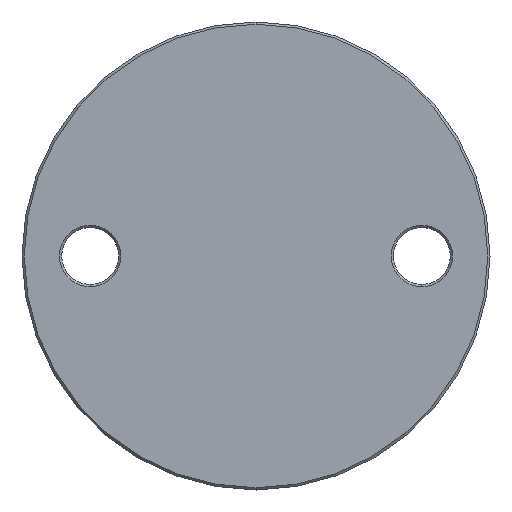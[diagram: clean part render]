
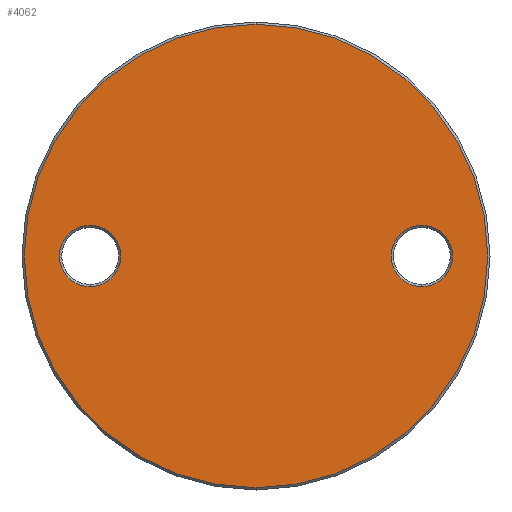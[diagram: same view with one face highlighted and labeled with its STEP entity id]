
A CAD part, front view. The second image highlights one B-rep face of the part: STEP entity #4062.
In plain terms, the highlighted planar face has unit normal (0, -1, 0).
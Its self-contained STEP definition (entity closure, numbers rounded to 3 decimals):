
#16 = ORIENTED_EDGE ( 'NONE', *, *, #1465, .T. ) ;
#225 = CARTESIAN_POINT ( 'NONE',  ( -36.5, -3., 0. ) ) ;
#252 = FACE_OUTER_BOUND ( 'NONE', #4340, .T. ) ;
#371 = VERTEX_POINT ( 'NONE', #467 ) ;
#467 = CARTESIAN_POINT ( 'NONE',  ( 0., -3., 51. ) ) ;
#559 = AXIS2_PLACEMENT_3D ( 'NONE', #2657, #1582, #3194 ) ;
#765 = CIRCLE ( 'NONE', #2286, 51. ) ;
#930 = CARTESIAN_POINT ( 'NONE',  ( 0., -3., 51.5 ) ) ;
#1051 = CARTESIAN_POINT ( 'NONE',  ( -36.5, -3., 6.75 ) ) ;
#1152 = EDGE_CURVE ( 'NONE', #4224, #6169, #4572, .T. ) ;
#1364 = CARTESIAN_POINT ( 'NONE',  ( 0., -3., 0. ) ) ;
#1465 = EDGE_CURVE ( 'NONE', #5958, #371, #3269, .T. ) ;
#1466 = AXIS2_PLACEMENT_3D ( 'NONE', #5038, #5518, #1893 ) ;
#1477 = DIRECTION ( 'NONE',  ( 0., -1., 0. ) ) ;
#1582 = DIRECTION ( 'NONE',  ( 0., 1., 0. ) ) ;
#1713 = ORIENTED_EDGE ( 'NONE', *, *, #2760, .T. ) ;
#1815 = ORIENTED_EDGE ( 'NONE', *, *, #3909, .T. ) ;
#1819 = CARTESIAN_POINT ( 'NONE',  ( -36.5, -3., -6.75 ) ) ;
#1829 = AXIS2_PLACEMENT_3D ( 'NONE', #225, #6528, #5002 ) ;
#1893 = DIRECTION ( 'NONE',  ( 0., 0., -1. ) ) ;
#1894 = DIRECTION ( 'NONE',  ( 0., -1., 0. ) ) ;
#1933 = CARTESIAN_POINT ( 'NONE',  ( -36.5, -3., 0. ) ) ;
#1976 = AXIS2_PLACEMENT_3D ( 'NONE', #6441, #2755, #3272 ) ;
#2286 = AXIS2_PLACEMENT_3D ( 'NONE', #1364, #1894, #6096 ) ;
#2295 = AXIS2_PLACEMENT_3D ( 'NONE', #1933, #3600, #6696 ) ;
#2401 = CIRCLE ( 'NONE', #1466, 6.75 ) ;
#2653 = EDGE_LOOP ( 'NONE', ( #4726, #4907 ) ) ;
#2657 = CARTESIAN_POINT ( 'NONE',  ( 36.5, -3., 0. ) ) ;
#2688 = CIRCLE ( 'NONE', #1829, 6.75 ) ;
#2755 = DIRECTION ( 'NONE',  ( 0., -1., 0. ) ) ;
#2760 = EDGE_CURVE ( 'NONE', #371, #5958, #765, .T. ) ;
#3029 = PLANE ( 'NONE',  #5356 ) ;
#3194 = DIRECTION ( 'NONE',  ( 0., 0., -1. ) ) ;
#3269 = CIRCLE ( 'NONE', #1976, 51. ) ;
#3272 = DIRECTION ( 'NONE',  ( 0., 0., -1. ) ) ;
#3464 = CARTESIAN_POINT ( 'NONE',  ( 0., -3., -51. ) ) ;
#3600 = DIRECTION ( 'NONE',  ( 0., 1., 0. ) ) ;
#3702 = EDGE_LOOP ( 'NONE', ( #5147, #1815 ) ) ;
#3909 = EDGE_CURVE ( 'NONE', #6169, #4224, #2401, .T. ) ;
#4062 = ADVANCED_FACE ( 'NONE', ( #4958, #4791, #252 ), #3029, .T. ) ;
#4142 = CARTESIAN_POINT ( 'NONE',  ( 36.5, -3., 6.75 ) ) ;
#4224 = VERTEX_POINT ( 'NONE', #5973 ) ;
#4340 = EDGE_LOOP ( 'NONE', ( #1713, #16 ) ) ;
#4357 = EDGE_CURVE ( 'NONE', #5857, #6722, #5792, .T. ) ;
#4572 = CIRCLE ( 'NONE', #559, 6.75 ) ;
#4726 = ORIENTED_EDGE ( 'NONE', *, *, #4357, .T. ) ;
#4791 = FACE_BOUND ( 'NONE', #2653, .T. ) ;
#4907 = ORIENTED_EDGE ( 'NONE', *, *, #6296, .T. ) ;
#4958 = FACE_BOUND ( 'NONE', #3702, .T. ) ;
#5002 = DIRECTION ( 'NONE',  ( 0., 0., -1. ) ) ;
#5038 = CARTESIAN_POINT ( 'NONE',  ( 36.5, -3., 0. ) ) ;
#5147 = ORIENTED_EDGE ( 'NONE', *, *, #1152, .T. ) ;
#5356 = AXIS2_PLACEMENT_3D ( 'NONE', #930, #1477, #5695 ) ;
#5518 = DIRECTION ( 'NONE',  ( 0., 1., 0. ) ) ;
#5695 = DIRECTION ( 'NONE',  ( 0., 0., -1. ) ) ;
#5792 = CIRCLE ( 'NONE', #2295, 6.75 ) ;
#5857 = VERTEX_POINT ( 'NONE', #1819 ) ;
#5958 = VERTEX_POINT ( 'NONE', #3464 ) ;
#5973 = CARTESIAN_POINT ( 'NONE',  ( 36.5, -3., -6.75 ) ) ;
#6096 = DIRECTION ( 'NONE',  ( 0., 0., -1. ) ) ;
#6169 = VERTEX_POINT ( 'NONE', #4142 ) ;
#6296 = EDGE_CURVE ( 'NONE', #6722, #5857, #2688, .T. ) ;
#6441 = CARTESIAN_POINT ( 'NONE',  ( 0., -3., 0. ) ) ;
#6528 = DIRECTION ( 'NONE',  ( 0., 1., 0. ) ) ;
#6696 = DIRECTION ( 'NONE',  ( 0., 0., -1. ) ) ;
#6722 = VERTEX_POINT ( 'NONE', #1051 ) ;
